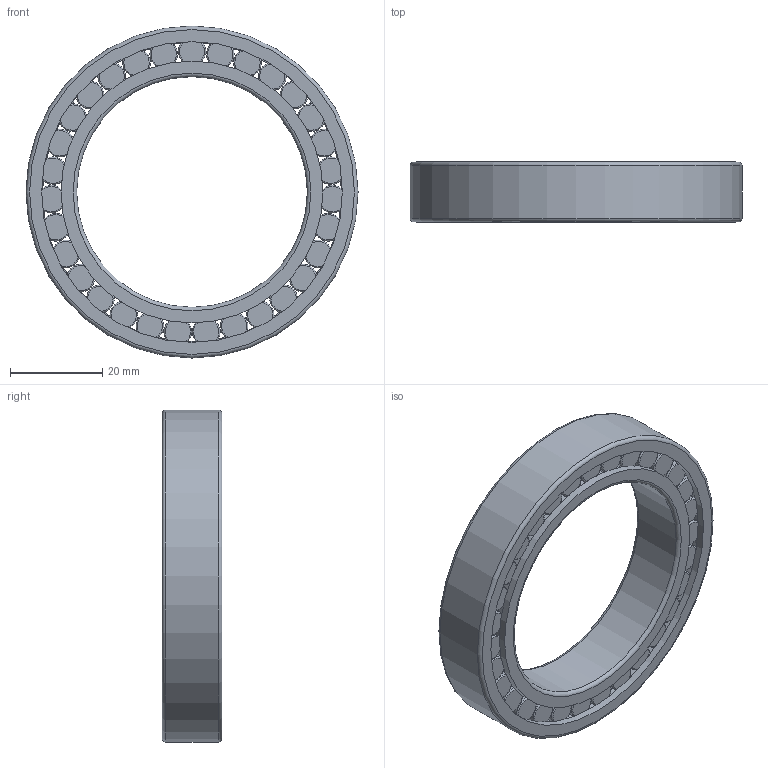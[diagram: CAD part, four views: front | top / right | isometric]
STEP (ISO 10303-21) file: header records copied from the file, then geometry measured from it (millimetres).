
FILE_DESCRIPTION(/* description */ (''),/* implementation_level */ '2;1');
FILE_NAME(/* name */ 'C:\Users\OUREHANEKD\Desktop\Ložiská\MODELY\JRVL\NCF\NCF29\NCF29--\NCF2910V.stp',/* time_stamp */ '2016-09-09T09:50:15+02:00',/* author */ ('OUREHANEKD'),/* organization */ (''),/* preprocessor_version */ 'ST-DEVELOPER v15.6',/* originating_system */ 'Autodesk Inventor 2015',/* authorisation */ '');
FILE_SCHEMA (('AUTOMOTIVE_DESIGN { 1 0 10303 214 3 1 1 }'));
Length unit declared in the file: millimetre
Products named in the file (5): NCF2910V-01; NCF2910V-02; NCF2910V-kr; NCF2910V-roller; NCF2910V
Assembly tree (34 placements, depth 2):
  NCF2910V
    NCF2910V-01
    NCF2910V-02
    NCF2910V-kr
    NCF2910V-roller  x31
Bounding box: 72 x 13 x 72 mm (x, y, z)
Volume: 21837.9 mm3; surface area: 21048.3 mm2
Topology: 34 solids, 34 shells, 182 faces, 260 edges, 151 vertices
Faces by surface type: plane 73, torus 67, cylinder 42
Full cylindrical faces by diameter (mm): 6 x31, 50 x1, 55 x1, 56.8 x2, 64.84 x1, 65.2 x1, 67 x2, 68 x2, 72 x1
Entity records: 1032 total; most frequent: DIRECTION 204, CARTESIAN_POINT 133, AXIS2_PLACEMENT_3D 102, EDGE_LOOP 62, ORIENTED_EDGE 62, PRODUCT_DEFINITION_SHAPE 39, STYLED_ITEM 36, ITEM_DEFINED_TRANSFORMATION 34
